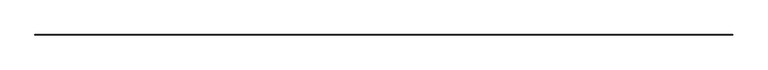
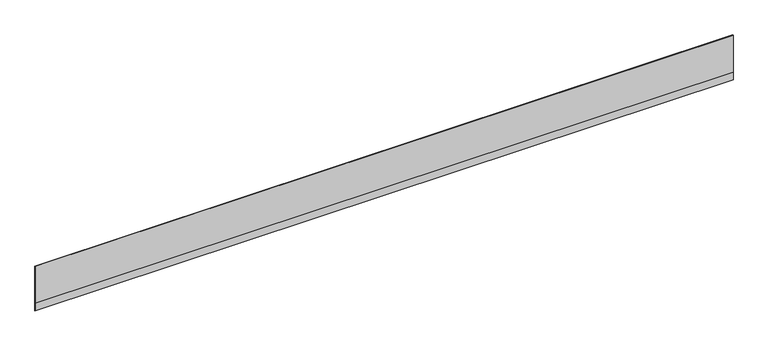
"""IFC4 building model written with IfcOpenShell, lengths in millimetres: railing geometry, Spezielle Abschlüsse."""

from ifc_helpers import new_model, si_unit, frame, origin, place, context, project, spatial, polyline, outline, extrude, source, transform, mapped, element, save


def railing_4b05dc59(model_context):
    return source(origin(), model_context, "Body", "SweptSolid", [
        extrude(outline(polyline([(-10.0, 200.0), (0.0, 200.0), (0.0, -1000.0), (-10.0, -1000.0), (-10.0, 0.0), (-10.0, 200.0)])), frame((6513.0959567, -18280.5588155, 10.0), z_axis=(-0.9999999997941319, 2.0291287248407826e-05, 0.0), x_axis=(2.0291287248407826e-05, 0.9999999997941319, 0.0)), (0.0, 0.0, 1.0), 17775.0199559),
    ])


if __name__ == "__main__":
    model = new_model("IFC4")
    model_context = context("Model", 3, world=origin())
    ifc_project = project(units=[si_unit("LENGTHUNIT", "METRE", prefix="MILLI")], contexts=[model_context])
    site = spatial("IfcSite", under=ifc_project)
    building = spatial("IfcBuilding", under=site)
    placement = place(None, origin())
    railing_shape = railing_4b05dc59(model_context)
    element("IfcRailing", 1, ObjectType="Spezielle Abschlüsse", at=placement, inside=building, context=model_context, shape_type="MappedRepresentation", body=[
        mapped(railing_shape, transform((0.0, 0.0, 0.0), x_axis=(1.0, 0.0, 0.0), y_axis=(0.0, 1.0, 0.0), z_axis=(0.0, 0.0, 1.0))),
    ])
    save(model, "model.ifc")
